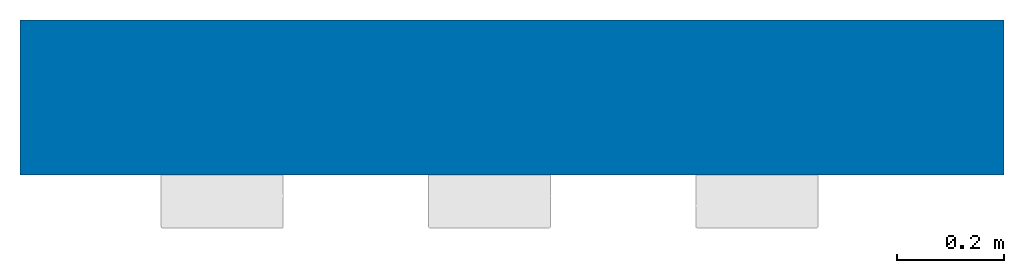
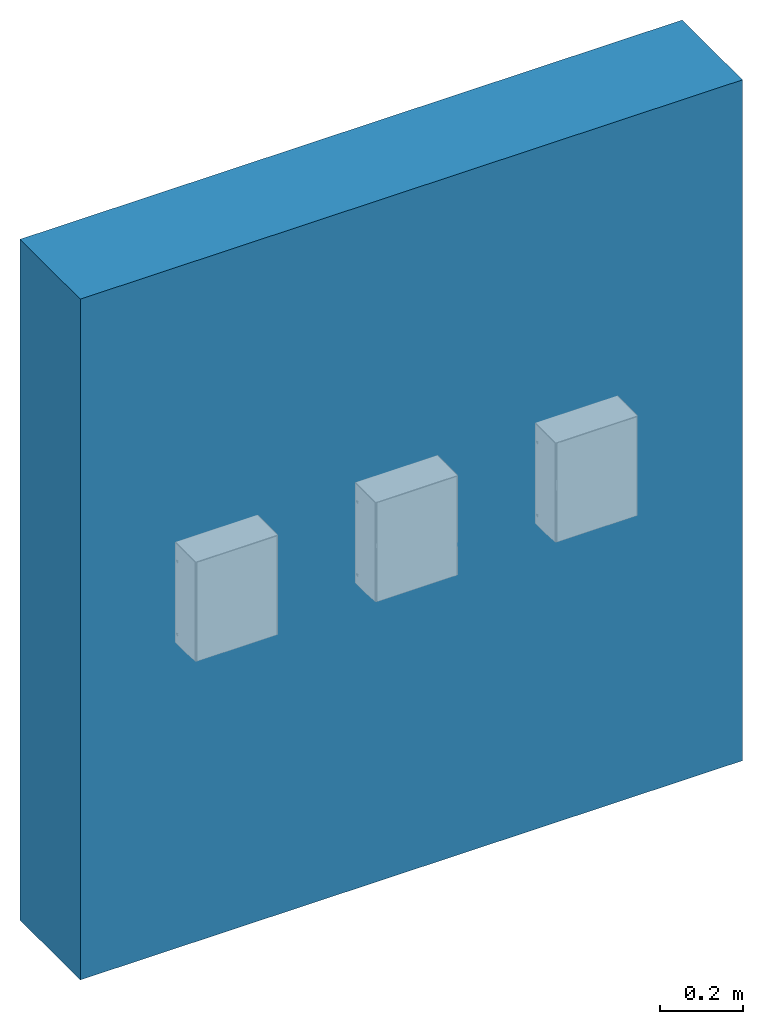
# One storey, incomplete: 1 wall.
"""IFC2X3 building model written with IfcOpenShell, lengths in millimetres."""

from ifc_helpers import new_model, entity, si_unit, converted_unit, derived_unit, direction, frame, frame_2d, origin, place, context, subcontext, project, spatial, rectangle, extrude, material, layer, layer_set, layer_usage, type_object, element, save


model = new_model("IFC2X3")

# Units and contexts
model_context = context("Model", 3, precision=0.01, world=origin(), true_north=direction((6.12303176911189e-17, 1.0)))
body_context = subcontext(model_context, "Body", "Model", "MODEL_VIEW")
ifc_project = project(units=[si_unit("LENGTHUNIT", "METRE", prefix="MILLI"), si_unit("AREAUNIT", "SQUARE_METRE"), si_unit("VOLUMEUNIT", "CUBIC_METRE"), converted_unit("PLANEANGLEUNIT", "DEGREE", entity("IfcRatioMeasure", 0.0174532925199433), si_unit("PLANEANGLEUNIT", "RADIAN"), dimensions=[0, 0, 0, 0, 0, 0, 0]), si_unit("MASSUNIT", "GRAM", prefix="KILO"), derived_unit("MASSDENSITYUNIT", [(si_unit("MASSUNIT", "GRAM", prefix="KILO"), 1), (si_unit("LENGTHUNIT", "METRE"), -3)]), si_unit("TIMEUNIT", "SECOND"), si_unit("FREQUENCYUNIT", "HERTZ"), si_unit("THERMODYNAMICTEMPERATUREUNIT", "DEGREE_CELSIUS"), derived_unit("THERMALTRANSMITTANCEUNIT", [(si_unit("MASSUNIT", "GRAM", prefix="KILO"), 1), (si_unit("THERMODYNAMICTEMPERATUREUNIT", "KELVIN"), -1), (si_unit("TIMEUNIT", "SECOND"), -3)]), derived_unit("VOLUMETRICFLOWRATEUNIT", [(si_unit("LENGTHUNIT", "METRE"), 3), (si_unit("TIMEUNIT", "SECOND"), -1)]), si_unit("ELECTRICCURRENTUNIT", "AMPERE"), si_unit("ELECTRICVOLTAGEUNIT", "VOLT"), si_unit("POWERUNIT", "WATT"), si_unit("FORCEUNIT", "NEWTON", prefix="KILO"), si_unit("ILLUMINANCEUNIT", "LUX"), si_unit("LUMINOUSFLUXUNIT", "LUMEN"), si_unit("LUMINOUSINTENSITYUNIT", "CANDELA"), derived_unit("USERDEFINED", [(si_unit("MASSUNIT", "GRAM", prefix="KILO"), -1), (si_unit("LENGTHUNIT", "METRE"), -2), (si_unit("TIMEUNIT", "SECOND"), 3), (si_unit("LUMINOUSFLUXUNIT", "LUMEN"), 1)]), derived_unit("LINEARVELOCITYUNIT", [(si_unit("LENGTHUNIT", "METRE"), 1), (si_unit("TIMEUNIT", "SECOND"), -1)]), si_unit("PRESSUREUNIT", "PASCAL"), derived_unit("USERDEFINED", [(si_unit("LENGTHUNIT", "METRE"), -2), (si_unit("MASSUNIT", "GRAM", prefix="KILO"), 1), (si_unit("TIMEUNIT", "SECOND"), -2)])], contexts=[model_context])

# Site, building, storey
site_placement = place(None, origin())
site = spatial("IfcSite", under=ifc_project, at=site_placement, Name="Default", CompositionType="ELEMENT")
building_placement = place(site_placement, origin())
building = spatial("IfcBuilding", under=site, at=building_placement, CompositionType="ELEMENT")
storey_placement = place(building_placement, origin())
storey = spatial("IfcBuildingStorey", under=building, at=storey_placement, Name="Level 0", CompositionType="ELEMENT", Elevation=0.0)

# Wall
ifc_material_1 = material(Name="Brick, Common")
ifc_layer_1 = layer(ifc_material_1, 102.5)
ifc_material_2 = material(Name="Fiberglass Batt")
ifc_layer_2 = layer(ifc_material_2, 75.0)
ifc_material_3 = material(Name="Concrete Masonry Units _Low Density")
ifc_layer_3 = layer(ifc_material_3, 100.0)
ifc_material_4 = material(Name="Plaster")
ifc_layer_4 = layer(ifc_material_4, 12.5)
ifc_layer_set = layer_set([ifc_layer_1, ifc_layer_2, ifc_layer_3, ifc_layer_4], Name="Basic Wall:Wall-Ext_102Bwk-75Ins-100LBlk-12P")
ifc_layer_usage = layer_usage(ifc_layer_set, "AXIS2", "NEGATIVE", 145.0)
wall_type = type_object("IfcWallType", Name="Basic Wall:Wall-Ext_102Bwk-75Ins-100LBlk-12P", PredefinedType="STANDARD", material=ifc_layer_set)
wall_placement = place(storey_placement, frame((-3320.91714243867, 782.516914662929, 0.0)))
element("IfcWallStandardCase", 1, at=wall_placement, inside=storey, type_object=wall_type, material=ifc_layer_usage, Name="Basic Wall:Wall-Ext_102Bwk-75Ins-100LBlk-12P", ObjectType="Basic Wall:Wall-Ext_102Bwk-75Ins-100LBlk-12P", context=body_context, shape_type="SweptSolid", body=[
    extrude(rectangle(XDim=1840.0, YDim=290.0, at=frame_2d((920.0, -1.4210854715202e-14), x_axis=(-1.0, 0.0))), origin(), (0.0, 0.0, 1.0), 2000.0),
])

save(model, "model.ifc")
